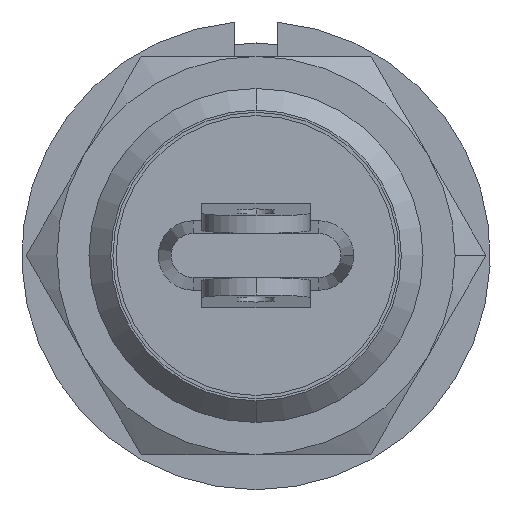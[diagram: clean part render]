
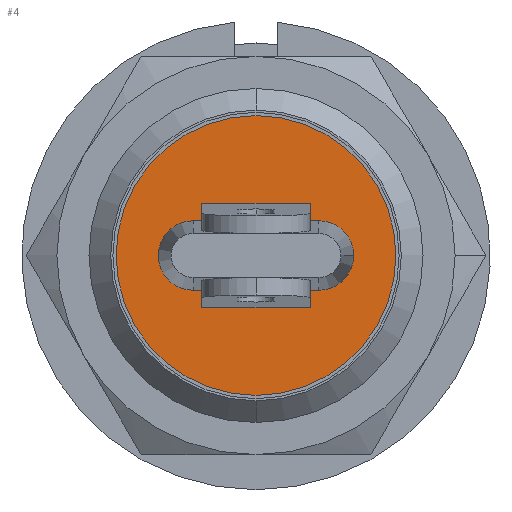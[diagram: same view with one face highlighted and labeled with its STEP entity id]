
A CAD part, front view. The second image highlights one B-rep face of the part: STEP entity #4.
In plain terms, the highlighted planar face has unit normal (0, -1, 0).
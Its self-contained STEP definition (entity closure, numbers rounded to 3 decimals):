
#4 = ADVANCED_FACE ( 'NONE', ( #1517, #1488 ), #2353, .F. ) ;
#9 = EDGE_CURVE ( 'NONE', #1284, #1273, #1367, .T. ) ;
#10 = EDGE_CURVE ( 'NONE', #1284, #1192, #1371, .T. ) ;
#14 = EDGE_CURVE ( 'NONE', #1277, #1273, #1384, .T. ) ;
#16 = EDGE_CURVE ( 'NONE', #1192, #1288, #248, .T. ) ;
#104 = EDGE_CURVE ( 'NONE', #1282, #1292, #285, .T. ) ;
#105 = EDGE_CURVE ( 'NONE', #1264, #1277, #286, .T. ) ;
#106 = EDGE_CURVE ( 'NONE', #1198, #1196, #929, .T. ) ;
#108 = EDGE_CURVE ( 'NONE', #1190, #1264, #1106, .T. ) ;
#109 = EDGE_CURVE ( 'NONE', #1196, #1190, #1057, .T. ) ;
#220 = EDGE_CURVE ( 'NONE', #1288, #1198, #1995, .T. ) ;
#226 = EDGE_CURVE ( 'NONE', #1292, #1282, #1999, .T. ) ;
#248 = CIRCLE ( 'NONE', #1516, 0.8 ) ;
#285 = CIRCLE ( 'NONE', #2165, 3.225 ) ;
#286 = CIRCLE ( 'NONE', #2059, 0.8 ) ;
#577 = CARTESIAN_POINT ( 'NONE',  ( 1.45, 0., 0. ) ) ;
#584 = DIRECTION ( 'NONE',  ( 0., -1., 0. ) ) ;
#585 = DIRECTION ( 'NONE',  ( 1., 0., 0. ) ) ;
#601 = CARTESIAN_POINT ( 'NONE',  ( 0., 0., 0. ) ) ;
#602 = DIRECTION ( 'NONE',  ( 0., -1., 0. ) ) ;
#603 = DIRECTION ( 'NONE',  ( 0., 0., -1. ) ) ;
#672 = CARTESIAN_POINT ( 'NONE',  ( -1.25, 0., 0.8 ) ) ;
#674 = CARTESIAN_POINT ( 'NONE',  ( 1.45, 0., -0.8 ) ) ;
#678 = CARTESIAN_POINT ( 'NONE',  ( 1.25, 0., 0.8 ) ) ;
#680 = CARTESIAN_POINT ( 'NONE',  ( 1.45, 0., 0.8 ) ) ;
#691 = CARTESIAN_POINT ( 'NONE',  ( -1.45, 0., 0.8 ) ) ;
#700 = CARTESIAN_POINT ( 'NONE',  ( -1.25, 0., -0.8 ) ) ;
#704 = CARTESIAN_POINT ( 'NONE',  ( -1.45, 0., -0.8 ) ) ;
#709 = CARTESIAN_POINT ( 'NONE',  ( 0., 0., 3.225 ) ) ;
#711 = CARTESIAN_POINT ( 'NONE',  ( 1.25, 0., -0.8 ) ) ;
#715 = CARTESIAN_POINT ( 'NONE',  ( 2.25, 0., 0. ) ) ;
#719 = CARTESIAN_POINT ( 'NONE',  ( 0., 0., -3.225 ) ) ;
#929 = LINE ( 'NONE', #930, #2271 ) ;
#930 = CARTESIAN_POINT ( 'NONE',  ( -1.45, 0., 0.8 ) ) ;
#932 = DIRECTION ( 'NONE',  ( -1., 0., 0. ) ) ;
#1050 = CARTESIAN_POINT ( 'NONE',  ( 0., 0., 0. ) ) ;
#1051 = DIRECTION ( 'NONE',  ( 0., -1., 0. ) ) ;
#1052 = DIRECTION ( 'NONE',  ( 0., 0., -1. ) ) ;
#1053 = CARTESIAN_POINT ( 'NONE',  ( -1.45, 0., 0. ) ) ;
#1054 = DIRECTION ( 'NONE',  ( 0., -1., 0. ) ) ;
#1055 = DIRECTION ( 'NONE',  ( 1., 0., 0. ) ) ;
#1056 = DIRECTION ( 'NONE',  ( -1., 0., 0. ) ) ;
#1057 = LINE ( 'NONE', #1058, #2086 ) ;
#1058 = CARTESIAN_POINT ( 'NONE',  ( -1.25, 0., 0.8 ) ) ;
#1059 = DIRECTION ( 'NONE',  ( -1., 0., 0. ) ) ;
#1106 = LINE ( 'NONE', #1122, #2185 ) ;
#1122 = CARTESIAN_POINT ( 'NONE',  ( -1.45, 0., 0.8 ) ) ;
#1190 = VERTEX_POINT ( 'NONE', #672 ) ;
#1192 = VERTEX_POINT ( 'NONE', #674 ) ;
#1196 = VERTEX_POINT ( 'NONE', #678 ) ;
#1198 = VERTEX_POINT ( 'NONE', #680 ) ;
#1229 = EDGE_LOOP ( 'NONE', ( #1756, #1755 ) ) ;
#1244 = EDGE_LOOP ( 'NONE', ( #1753, #1754, #1752, #1757, #1751, #1750, #1749, #1748, #1747 ) ) ;
#1264 = VERTEX_POINT ( 'NONE', #691 ) ;
#1273 = VERTEX_POINT ( 'NONE', #700 ) ;
#1277 = VERTEX_POINT ( 'NONE', #704 ) ;
#1282 = VERTEX_POINT ( 'NONE', #709 ) ;
#1284 = VERTEX_POINT ( 'NONE', #711 ) ;
#1288 = VERTEX_POINT ( 'NONE', #715 ) ;
#1292 = VERTEX_POINT ( 'NONE', #719 ) ;
#1352 = CARTESIAN_POINT ( 'NONE',  ( -3.225, 0., 0. ) ) ;
#1353 = DIRECTION ( 'NONE',  ( 0., 0., 1. ) ) ;
#1354 = DIRECTION ( 'NONE',  ( 0., 1., 0. ) ) ;
#1367 = LINE ( 'NONE', #1368, #1504 ) ;
#1368 = CARTESIAN_POINT ( 'NONE',  ( -1.25, 0., -0.8 ) ) ;
#1369 = DIRECTION ( 'NONE',  ( -1., 0., 0. ) ) ;
#1371 = LINE ( 'NONE', #1372, #1515 ) ;
#1372 = CARTESIAN_POINT ( 'NONE',  ( -1.45, 0., -0.8 ) ) ;
#1373 = DIRECTION ( 'NONE',  ( 1., 0., 0. ) ) ;
#1384 = LINE ( 'NONE', #1385, #1566 ) ;
#1385 = CARTESIAN_POINT ( 'NONE',  ( -1.45, 0., -0.8 ) ) ;
#1386 = DIRECTION ( 'NONE',  ( 1., 0., 0. ) ) ;
#1389 = CARTESIAN_POINT ( 'NONE',  ( 1.45, 0., 0. ) ) ;
#1390 = DIRECTION ( 'NONE',  ( 0., -1., 0. ) ) ;
#1391 = DIRECTION ( 'NONE',  ( 1., 0., 0. ) ) ;
#1487 = AXIS2_PLACEMENT_3D ( 'NONE', #1352, #1354, #1353 ) ;
#1488 = FACE_BOUND ( 'NONE', #1244, .T. ) ;
#1504 = VECTOR ( 'NONE', #1369, 1000. ) ;
#1515 = VECTOR ( 'NONE', #1373, 1000. ) ;
#1516 = AXIS2_PLACEMENT_3D ( 'NONE', #1389, #1390, #1391 ) ;
#1517 = FACE_OUTER_BOUND ( 'NONE', #1229, .T. ) ;
#1566 = VECTOR ( 'NONE', #1386, 1000. ) ;
#1747 = ORIENTED_EDGE ( 'NONE', *, *, #14, .F. ) ;
#1748 = ORIENTED_EDGE ( 'NONE', *, *, #9, .T. ) ;
#1749 = ORIENTED_EDGE ( 'NONE', *, *, #10, .F. ) ;
#1750 = ORIENTED_EDGE ( 'NONE', *, *, #16, .F. ) ;
#1751 = ORIENTED_EDGE ( 'NONE', *, *, #220, .F. ) ;
#1752 = ORIENTED_EDGE ( 'NONE', *, *, #109, .F. ) ;
#1753 = ORIENTED_EDGE ( 'NONE', *, *, #105, .F. ) ;
#1754 = ORIENTED_EDGE ( 'NONE', *, *, #108, .F. ) ;
#1755 = ORIENTED_EDGE ( 'NONE', *, *, #104, .T. ) ;
#1756 = ORIENTED_EDGE ( 'NONE', *, *, #226, .T. ) ;
#1757 = ORIENTED_EDGE ( 'NONE', *, *, #106, .F. ) ;
#1995 = CIRCLE ( 'NONE', #2216, 0.8 ) ;
#1999 = CIRCLE ( 'NONE', #2093, 3.225 ) ;
#2059 = AXIS2_PLACEMENT_3D ( 'NONE', #1053, #1054, #1055 ) ;
#2086 = VECTOR ( 'NONE', #1059, 1000. ) ;
#2093 = AXIS2_PLACEMENT_3D ( 'NONE', #601, #602, #603 ) ;
#2165 = AXIS2_PLACEMENT_3D ( 'NONE', #1050, #1051, #1052 ) ;
#2185 = VECTOR ( 'NONE', #1056, 1000. ) ;
#2216 = AXIS2_PLACEMENT_3D ( 'NONE', #577, #584, #585 ) ;
#2271 = VECTOR ( 'NONE', #932, 1000. ) ;
#2353 = PLANE ( 'NONE',  #1487 ) ;
